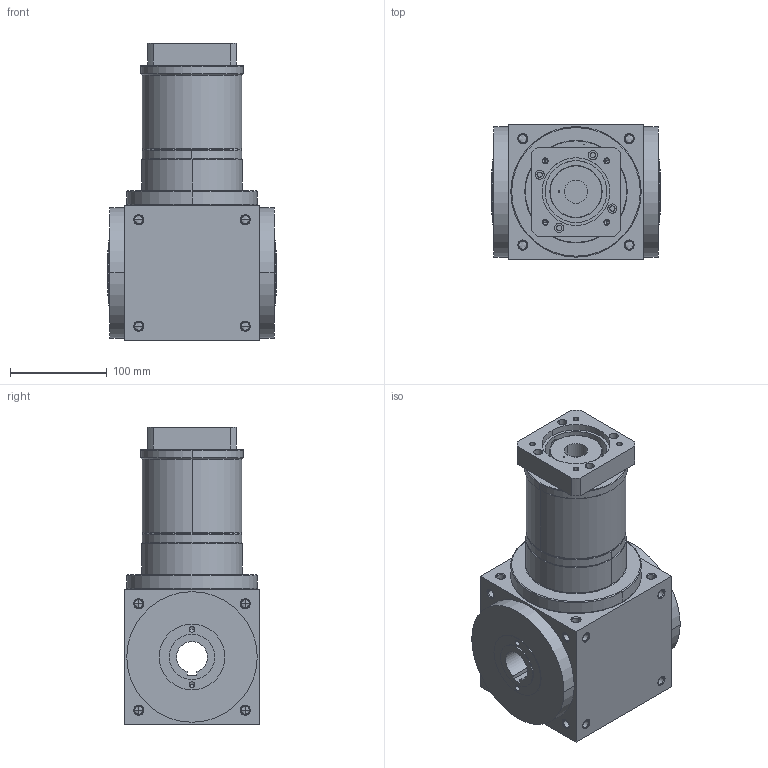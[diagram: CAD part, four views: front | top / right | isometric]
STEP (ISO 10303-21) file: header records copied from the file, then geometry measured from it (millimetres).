
FILE_DESCRIPTION((''),'2;1');
FILE_NAME('ATB140FH2-P0405300308_ASM','2023-04-13T',('Administrator'),(''),'PRO/ENGINEER BY PARAMETRIC TECHNOLOGY CORPORATION, 2015240','PRO/ENGINEER BY PARAMETRIC TECHNOLOGY CORPORATION, 2015240','');
FILE_SCHEMA(('CONFIG_CONTROL_DESIGN'));
Length unit declared in the file: millimetre
Products named in the file (7): P0226600001_D; P1801600002_D; ATH-HOUSING-6; P0903300001_D; ATB140FH2_ASM; P0405300308-0003; ATB140FH2-P0405300308_ASM
Assembly tree (6 placements, depth 3):
  ATB140FH2-P0405300308_ASM
    ATB140FH2_ASM
      P0226600001_D
      P1801600002_D
      ATH-HOUSING-6
      P0903300001_D
    P0405300308-0003
Bounding box: 174 x 140 x 307.5 mm (x, y, z)
Volume: 3855971.9 mm3; surface area: 332179.4 mm2
Topology: 5 solids, 34 shells, 448 faces, 1160 edges, 700 vertices
Faces by surface type: cylinder 238, cone 126, plane 66, torus 16, bspline 2
Entity records: 14410 total; most frequent: CARTESIAN_POINT 3537, DIRECTION 2366, ORIENTED_EDGE 2068, EDGE_CURVE 1092, AXIS2_PLACEMENT_3D 983, VERTEX_POINT 700, EDGE_LOOP 544, CIRCLE 514
